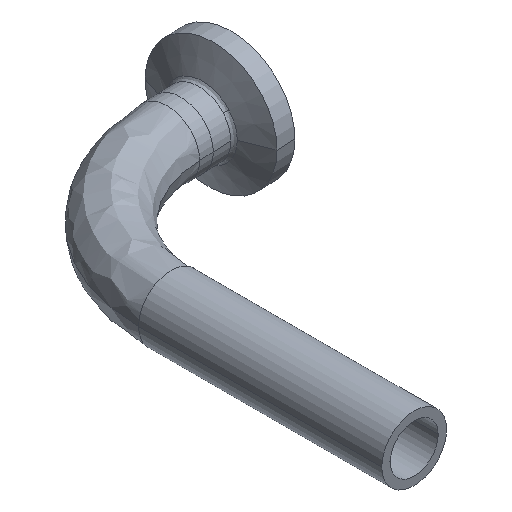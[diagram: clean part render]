
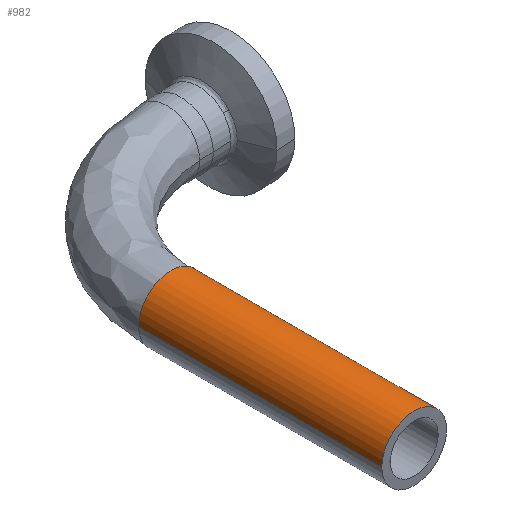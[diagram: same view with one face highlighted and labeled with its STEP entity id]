
A CAD part, isometric view. The second image highlights one B-rep face of the part: STEP entity #982.
In plain terms, the highlighted cylindrical face has radius 6.35 mm (diameter 12.7 mm), a partial arc.
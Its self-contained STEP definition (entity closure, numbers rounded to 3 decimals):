
#42 = EDGE_CURVE ( 'NONE', #166, #429, #1282, .T. ) ;
#104 = CARTESIAN_POINT ( 'NONE',  ( 6.35, 47.681, 0. ) ) ;
#166 = VERTEX_POINT ( 'NONE', #997 ) ;
#239 = VECTOR ( 'NONE', #1297, 1000. ) ;
#268 = ORIENTED_EDGE ( 'NONE', *, *, #490, .T. ) ;
#314 = CARTESIAN_POINT ( 'NONE',  ( -6.35, 0., 0. ) ) ;
#338 = ORIENTED_EDGE ( 'NONE', *, *, #42, .T. ) ;
#352 = EDGE_CURVE ( 'NONE', #485, #1161, #698, .T. ) ;
#370 = CYLINDRICAL_SURFACE ( 'NONE', #581, 6.35 ) ;
#389 = DIRECTION ( 'NONE',  ( 0., -1., 0. ) ) ;
#403 = AXIS2_PLACEMENT_3D ( 'NONE', #1015, #1017, #1024 ) ;
#429 = VERTEX_POINT ( 'NONE', #314 ) ;
#438 = CARTESIAN_POINT ( 'NONE',  ( 6.35, 47.681, 0. ) ) ;
#463 = EDGE_LOOP ( 'NONE', ( #719, #338, #268, #497 ) ) ;
#485 = VERTEX_POINT ( 'NONE', #438 ) ;
#490 = EDGE_CURVE ( 'NONE', #429, #1161, #709, .T. ) ;
#497 = ORIENTED_EDGE ( 'NONE', *, *, #352, .F. ) ;
#572 = FACE_OUTER_BOUND ( 'NONE', #463, .T. ) ;
#581 = AXIS2_PLACEMENT_3D ( 'NONE', #629, #647, #636 ) ;
#592 = CARTESIAN_POINT ( 'NONE',  ( -6.35, 47.681, 0. ) ) ;
#608 = CIRCLE ( 'NONE', #403, 6.35 ) ;
#629 = CARTESIAN_POINT ( 'NONE',  ( 0., 47.681, 0. ) ) ;
#636 = DIRECTION ( 'NONE',  ( 1., 0., 0. ) ) ;
#647 = DIRECTION ( 'NONE',  ( 0., -1., 0. ) ) ;
#659 = CARTESIAN_POINT ( 'NONE',  ( 0., 0., 0. ) ) ;
#665 = DIRECTION ( 'NONE',  ( 0., 1., 0. ) ) ;
#673 = DIRECTION ( 'NONE',  ( 1., 0., 0. ) ) ;
#698 = LINE ( 'NONE', #104, #239 ) ;
#699 = EDGE_CURVE ( 'NONE', #485, #166, #608, .T. ) ;
#709 = CIRCLE ( 'NONE', #1005, 6.35 ) ;
#719 = ORIENTED_EDGE ( 'NONE', *, *, #699, .T. ) ;
#982 = ADVANCED_FACE ( 'NONE', ( #572 ), #370, .T. ) ;
#997 = CARTESIAN_POINT ( 'NONE',  ( -6.35, 47.681, 0. ) ) ;
#1005 = AXIS2_PLACEMENT_3D ( 'NONE', #659, #665, #673 ) ;
#1015 = CARTESIAN_POINT ( 'NONE',  ( 0., 47.681, 0. ) ) ;
#1017 = DIRECTION ( 'NONE',  ( 0., -1., 0. ) ) ;
#1024 = DIRECTION ( 'NONE',  ( 1., 0., 0. ) ) ;
#1109 = VECTOR ( 'NONE', #389, 1000. ) ;
#1161 = VERTEX_POINT ( 'NONE', #1240 ) ;
#1240 = CARTESIAN_POINT ( 'NONE',  ( 6.35, 0., 0. ) ) ;
#1282 = LINE ( 'NONE', #592, #1109 ) ;
#1297 = DIRECTION ( 'NONE',  ( 0., -1., 0. ) ) ;
